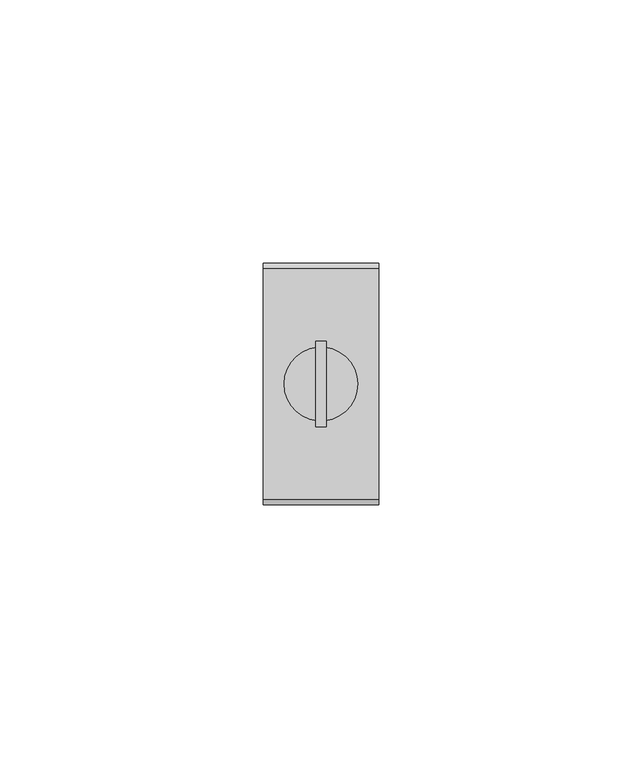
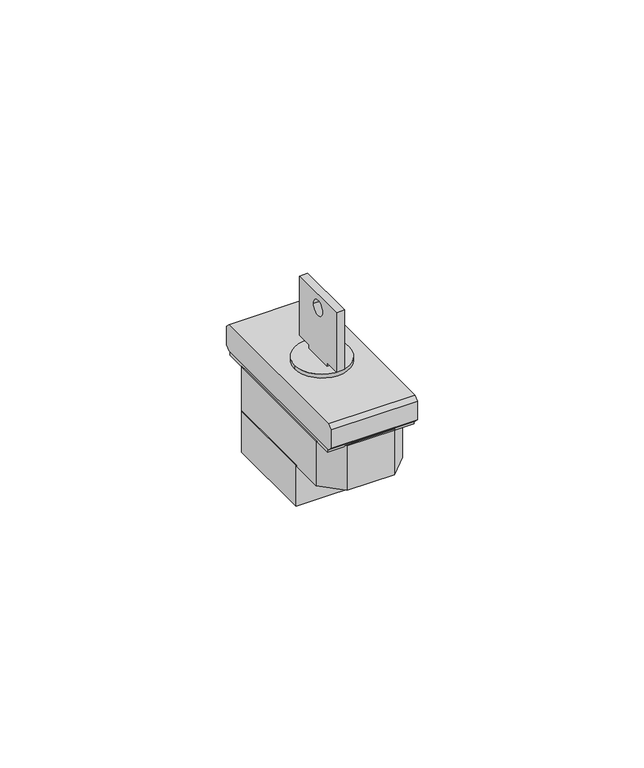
"""IFC4 building model written with IfcOpenShell, lengths in millimetres: proxy geometry, L4012 LI interruttore 2P 16A a chiave : L4012 LI interruttore 2P 16A a chiave."""

from ifc_helpers import new_model, si_unit, point, frame, frame_2d, origin, origin_with_axes, origin_2d, place, context, project, spatial, polyline, circle_curve, trimmed, segment, composite_curve, outline, extrude, source, transform, mapped, element, save


def electrical_fixtures_7e059148(model_context):
    return source(origin(), model_context, "Body", "SweptSolid", [
        extrude(outline(polyline([(-4.0, 9.979899), (-8.1, 9.979899), (-8.1, 25.979899), (8.1, 25.979899), (8.1, 9.979899), (4.0, 9.979899), (4.0, 8.979899), (-4.0, 8.979899), (-4.0, 9.979899)]), holes=[composite_curve([segment(trimmed(circle_curve(frame_2d((0.0, 22.3136196)), 2.0), [point((-2.0, 22.3136196))], [point((2.0, 22.3136196))], True, "CARTESIAN"), True, "CONTINUOUS"), segment(trimmed(circle_curve(frame_2d((0.0, 22.3136196)), 2.0), [point((2.0, 22.3136196))], [point((-2.0, 22.3136196))], True, "CARTESIAN"), True, "CONTINUOUS")], self_intersect=False)]), frame((-1.0, 0.0, 0.0), z_axis=(1.0, 0.0, 0.0), x_axis=(0.0, 1.0, 0.0)), (0.0, 0.0, 1.0), 2.0),
        extrude(outline(composite_curve([segment(trimmed(circle_curve(origin_2d(), 7.0), [point((7.0, 0.0))], [point((-7.0, 0.0))], False, "CARTESIAN"), True, "CONTINUOUS"), segment(trimmed(circle_curve(origin_2d(), 7.0), [point((-7.0, 0.0))], [point((7.0, 0.0))], False, "CARTESIAN"), True, "CONTINUOUS")], self_intersect=False)), frame((0.0, 0.0, 7.979899), z_axis=(0.0, 0.0, 1.0), x_axis=(1.0, 0.0, 0.0)), (0.0, 0.0, 1.0), 1.0),
        extrude(outline(polyline([(-22.0, 1.0), (-22.9899495, 1.9899495), (-22.9899495, 6.9899495), (-22.0, 7.979899), (22.0, 7.979899), (22.9899495, 6.9899495), (22.9899495, 1.9899495), (22.0, 1.0), (-22.0, 1.0)])), frame((-11.0, 0.0, 0.0), z_axis=(1.0, 0.0, 0.0), x_axis=(0.0, 1.0, 0.0)), (0.0, 0.0, 1.0), 22.0),
        extrude(outline(polyline([(-11.0, -7.5), (-11.0, 16.5), (-9.0, 18.5), (9.0, 18.5), (11.0, 16.5), (11.0, -7.5), (-11.0, -7.5)])), frame((0.0, 0.0, -23.0), z_axis=(0.0, 0.0, 1.0), x_axis=(1.0, 0.0, 0.0)), (0.0, 0.0, 1.0), 11.0),
        extrude(outline(polyline([(11.0, -16.5), (6.0, -21.5), (-6.0, -21.5), (-11.0, -16.5), (-11.0, 16.5), (-6.0, 21.5), (6.0, 21.5), (11.0, 16.5), (11.0, -16.5)])), frame((0.0, 0.0, -12.0), z_axis=(0.0, 0.0, 1.0), x_axis=(1.0, 0.0, 0.0)), (0.0, 0.0, 1.0), 12.0),
        extrude(outline(polyline([(11.0, -21.5), (-11.0, -21.5), (-11.0, 21.5), (11.0, 21.5), (11.0, -21.5)])), origin_with_axes(), (0.0, 0.0, 1.0), 1.0),
    ])


if __name__ == "__main__":
    model = new_model("IFC4")
    model_context = context("Model", 3, world=origin())
    ifc_project = project(units=[si_unit("LENGTHUNIT", "METRE", prefix="MILLI")], contexts=[model_context])
    site = spatial("IfcSite", under=ifc_project)
    building = spatial("IfcBuilding", under=site)
    placement = place(None, origin())
    electrical_fixtures_shape = electrical_fixtures_7e059148(model_context)
    element("IfcBuildingElementProxy", 1, Name="L4012 LI interruttore 2P 16A a chiave : L4012 LI interruttore 2P 16A a chiave", ObjectType="L4012 LI interruttore 2P 16A a chiave : L4012 LI interruttore 2P 16A a chiave", at=placement, inside=building, context=model_context, shape_type="MappedRepresentation", body=[
        mapped(electrical_fixtures_shape, transform((0.0, 0.0, 0.0), x_axis=(1.0, 0.0, 0.0), y_axis=(0.0, 1.0, 0.0), z_axis=(0.0, 0.0, 1.0))),
    ])
    save(model, "model.ifc")
